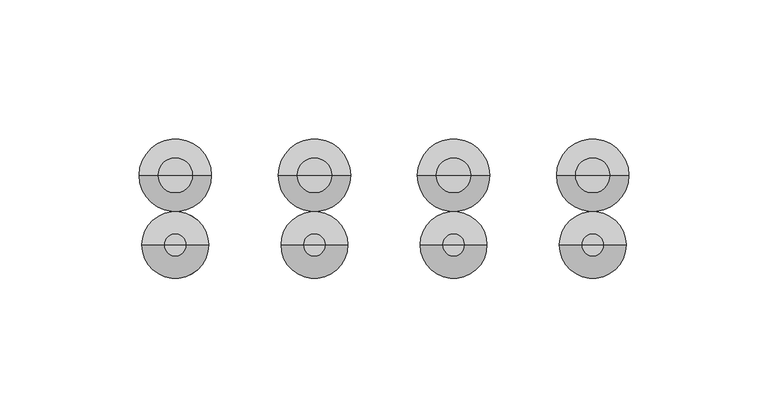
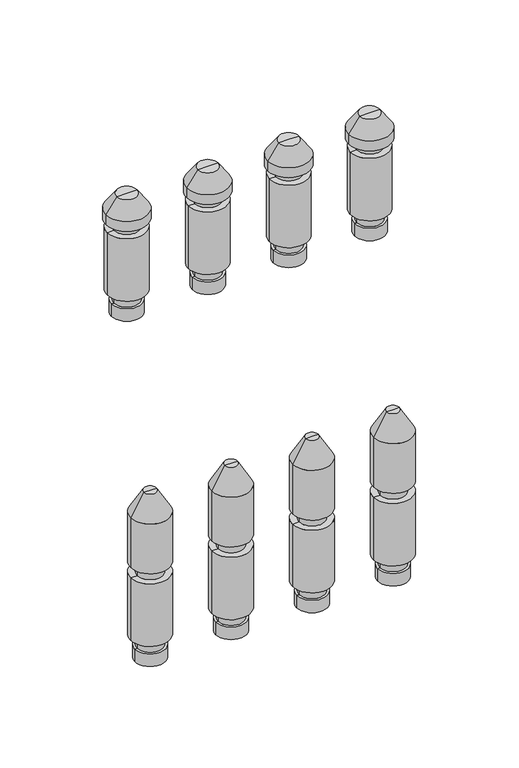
"""IFC4 building model written with IfcOpenShell, lengths in millimetres: valve geometry, PL CZ_Manifold_FT-VA : 14 circuits."""

from ifc_helpers import new_model, si_unit, frame, origin, place, context, project, spatial, polyline, circle_curve, source, transform, mapped, element, save
from ifc_brep_helpers import plane_surface, cylinder_surface, revolved_surface, advanced_brep


def valve_eef75e3c(model_context):
    return source(origin(), model_context, "Body", "AdvancedBrep", [
        advanced_brep(
        [(628.5, 0.0, -35.11267), (647.5, 0.0, -35.11267), (638.0, 0.0, -35.11267), (628.5, 0.0, -27.0369646), (647.5, 0.0, -27.0369646), (630.0, 0.0, -27.0369646), (646.0, 0.0, -27.0369646), (630.0, 0.0, -20.330253), (646.0, 0.0, -20.330253), (626.0, 0.0, -20.330253), (650.0, 0.0, -20.330253), (626.0, 0.0, 20.330253), (650.0, 0.0, 20.330253), (630.0, 0.0, 20.330253), (646.0, 0.0, 20.330253), (630.0, 0.0, 27.0474786), (646.0, 0.0, 27.0474786), (626.0, 0.0, 27.0474786), (650.0, 0.0, 27.0474786), (626.0, 0.0, 59.4084325), (650.0, 0.0, 59.4084325), (634.0, 0.0, 73.264839), (642.0, 0.0, 73.264839), (638.0, 0.0, 73.264839)],
        [
            (0, 1, circle_curve(frame((638.0, 0.0, -35.11267), z_axis=(0.0, 0.0, -1.0), x_axis=(1.0, 0.0, 0.0)), 9.5)),
            (1, 2),
            (2, 0),
            (1, 0, circle_curve(frame((638.0, 0.0, -35.11267), z_axis=(0.0, 0.0, -1.0), x_axis=(1.0, 0.0, 0.0)), 9.5)),
            (3, 4, circle_curve(frame((638.0, 0.0, -27.0369646), z_axis=(0.0, 0.0, -1.0), x_axis=(1.0, 0.0, 0.0)), 9.5)),
            (4, 1),
            (0, 3),
            (4, 3, circle_curve(frame((638.0, 0.0, -27.0369646), z_axis=(0.0, 0.0, -1.0), x_axis=(1.0, 0.0, 0.0)), 9.5)),
            (5, 6, circle_curve(frame((638.0, 0.0, -27.0369646), z_axis=(0.0, 0.0, -1.0), x_axis=(1.0, 0.0, 0.0)), 8.0)),
            (6, 4),
            (3, 5),
            (6, 5, circle_curve(frame((638.0, 0.0, -27.0369646), z_axis=(0.0, 0.0, -1.0), x_axis=(1.0, 0.0, 0.0)), 8.0)),
            (7, 8, circle_curve(frame((638.0, 0.0, -20.330253), z_axis=(0.0, 0.0, -1.0), x_axis=(1.0, 0.0, 0.0)), 8.0)),
            (8, 6),
            (5, 7),
            (8, 7, circle_curve(frame((638.0, 0.0, -20.330253), z_axis=(0.0, 0.0, -1.0), x_axis=(1.0, 0.0, 0.0)), 8.0)),
            (9, 10, circle_curve(frame((638.0, 0.0, -20.330253), z_axis=(0.0, 0.0, -1.0), x_axis=(1.0, 0.0, 0.0)), 12.0)),
            (10, 8),
            (7, 9),
            (10, 9, circle_curve(frame((638.0, 0.0, -20.330253), z_axis=(0.0, 0.0, -1.0), x_axis=(1.0, 0.0, 0.0)), 12.0)),
            (11, 12, circle_curve(frame((638.0, 0.0, 20.330253), z_axis=(0.0, 0.0, -1.0), x_axis=(1.0, 0.0, 0.0)), 12.0)),
            (12, 10),
            (9, 11),
            (12, 11, circle_curve(frame((638.0, 0.0, 20.330253), z_axis=(0.0, 0.0, -1.0), x_axis=(1.0, 0.0, 0.0)), 12.0)),
            (13, 14, circle_curve(frame((638.0, 0.0, 20.330253), z_axis=(0.0, 0.0, -1.0), x_axis=(1.0, 0.0, 0.0)), 8.0)),
            (14, 12),
            (11, 13),
            (14, 13, circle_curve(frame((638.0, 0.0, 20.330253), z_axis=(0.0, 0.0, -1.0), x_axis=(1.0, 0.0, 0.0)), 8.0)),
            (15, 16, circle_curve(frame((638.0, 0.0, 27.0474786), z_axis=(0.0, 0.0, -1.0), x_axis=(1.0, 0.0, 0.0)), 8.0)),
            (16, 14),
            (13, 15),
            (16, 15, circle_curve(frame((638.0, 0.0, 27.0474786), z_axis=(0.0, 0.0, -1.0), x_axis=(1.0, 0.0, 0.0)), 8.0)),
            (17, 18, circle_curve(frame((638.0, 0.0, 27.0474786), z_axis=(0.0, 0.0, -1.0), x_axis=(1.0, 0.0, 0.0)), 12.0)),
            (18, 16),
            (15, 17),
            (18, 17, circle_curve(frame((638.0, 0.0, 27.0474786), z_axis=(0.0, 0.0, -1.0), x_axis=(1.0, 0.0, 0.0)), 12.0)),
            (19, 20, circle_curve(frame((638.0, 0.0, 59.4084325), z_axis=(0.0, 0.0, -1.0), x_axis=(1.0, 0.0, 0.0)), 12.0)),
            (20, 18),
            (17, 19),
            (20, 19, circle_curve(frame((638.0, 0.0, 59.4084325), z_axis=(0.0, 0.0, -1.0), x_axis=(1.0, 0.0, 0.0)), 12.0)),
            (21, 22, circle_curve(frame((638.0, 0.0, 73.264839), z_axis=(0.0, 0.0, -1.0), x_axis=(1.0, 0.0, 0.0)), 4.0)),
            (22, 20),
            (19, 21),
            (22, 21, circle_curve(frame((638.0, 0.0, 73.264839), z_axis=(0.0, 0.0, -1.0), x_axis=(1.0, 0.0, 0.0)), 4.0)),
            (23, 22),
            (21, 23),
        ],
        [
            plane_surface(frame((638.0, 0.0, -35.11267), z_axis=(0.0, 0.0, -1.0), x_axis=(1.0, 0.0, 0.0))),
            cylinder_surface(frame((638.0, 0.0, 58.264839), z_axis=(0.0, 0.0, 1.0), x_axis=(1.0, 0.0, 0.0)), 9.5),
            plane_surface(frame((638.0, 0.0, -27.0369646), z_axis=(0.0, 0.0, 1.0), x_axis=(1.0, 0.0, 0.0))),
            cylinder_surface(frame((638.0, 0.0, 58.264839), z_axis=(0.0, 0.0, 1.0), x_axis=(1.0, 0.0, 0.0)), 8.0),
            plane_surface(frame((638.0, 0.0, -20.330253), z_axis=(0.0, 0.0, -1.0), x_axis=(1.0, 0.0, 0.0))),
            cylinder_surface(frame((638.0, 0.0, 58.264839), z_axis=(0.0, 0.0, 1.0), x_axis=(1.0, 0.0, 0.0)), 12.0),
            plane_surface(frame((638.0, 0.0, 20.330253), z_axis=(0.0, 0.0, 1.0), x_axis=(1.0, 0.0, 0.0))),
            plane_surface(frame((638.0, 0.0, 27.0474786), z_axis=(0.0, 0.0, -1.0), x_axis=(1.0, 0.0, 0.0))),
            revolved_surface(polyline([(650.0, 0.0, 59.4084325), (642.0, 0.0, 73.264839)]), (638.0, 0.0, 58.264839), (0.0, 0.0, 1.0)),
            plane_surface(frame((638.0, 0.0, 73.264839), z_axis=(0.0, 0.0, 1.0), x_axis=(1.0, 0.0, 0.0))),
        ],
        [
            (0, [[1, 2, 3]]),
            (0, [[4, -3, -2]]),
            (1, [[5, 6, -1, 7]]),
            (1, [[8, -7, -4, -6]]),
            (2, [[9, 10, -5, 11]]),
            (2, [[12, -11, -8, -10]]),
            (3, [[13, 14, -9, 15]]),
            (3, [[16, -15, -12, -14]]),
            (4, [[17, 18, -13, 19]]),
            (4, [[20, -19, -16, -18]]),
            (5, [[21, 22, -17, 23]]),
            (5, [[24, -23, -20, -22]]),
            (6, [[25, 26, -21, 27]]),
            (6, [[28, -27, -24, -26]]),
            (3, [[29, 30, -25, 31]]),
            (3, [[32, -31, -28, -30]]),
            (7, [[33, 34, -29, 35]]),
            (7, [[36, -35, -32, -34]]),
            (5, [[37, 38, -33, 39]]),
            (5, [[40, -39, -36, -38]]),
            (8, [[41, 42, -37, 43]]),
            (8, [[44, -43, -40, -42]]),
            (9, [[45, -41, 46]]),
            (9, [[-46, -44, -45]]),
        ],
    ),
        advanced_brep(
        [(578.5, 0.0, -35.11267), (597.5, 0.0, -35.11267), (588.0, 0.0, -35.11267), (578.5, 0.0, -27.0369646), (597.5, 0.0, -27.0369646), (580.0, 0.0, -27.0369646), (596.0, 0.0, -27.0369646), (580.0, 0.0, -20.330253), (596.0, 0.0, -20.330253), (576.0, 0.0, -20.330253), (600.0, 0.0, -20.330253), (576.0, 0.0, 20.330253), (600.0, 0.0, 20.330253), (580.0, 0.0, 20.330253), (596.0, 0.0, 20.330253), (580.0, 0.0, 27.0474786), (596.0, 0.0, 27.0474786), (576.0, 0.0, 27.0474786), (600.0, 0.0, 27.0474786), (576.0, 0.0, 59.4084325), (600.0, 0.0, 59.4084325), (584.0, 0.0, 73.264839), (592.0, 0.0, 73.264839), (588.0, 0.0, 73.264839)],
        [
            (0, 1, circle_curve(frame((588.0, 0.0, -35.11267), z_axis=(0.0, 0.0, -1.0), x_axis=(1.0, 0.0, 0.0)), 9.5)),
            (1, 2),
            (2, 0),
            (1, 0, circle_curve(frame((588.0, 0.0, -35.11267), z_axis=(0.0, 0.0, -1.0), x_axis=(1.0, 0.0, 0.0)), 9.5)),
            (3, 4, circle_curve(frame((588.0, 0.0, -27.0369646), z_axis=(0.0, 0.0, -1.0), x_axis=(1.0, 0.0, 0.0)), 9.5)),
            (4, 1),
            (0, 3),
            (4, 3, circle_curve(frame((588.0, 0.0, -27.0369646), z_axis=(0.0, 0.0, -1.0), x_axis=(1.0, 0.0, 0.0)), 9.5)),
            (5, 6, circle_curve(frame((588.0, 0.0, -27.0369646), z_axis=(0.0, 0.0, -1.0), x_axis=(1.0, 0.0, 0.0)), 8.0)),
            (6, 4),
            (3, 5),
            (6, 5, circle_curve(frame((588.0, 0.0, -27.0369646), z_axis=(0.0, 0.0, -1.0), x_axis=(1.0, 0.0, 0.0)), 8.0)),
            (7, 8, circle_curve(frame((588.0, 0.0, -20.330253), z_axis=(0.0, 0.0, -1.0), x_axis=(1.0, 0.0, 0.0)), 8.0)),
            (8, 6),
            (5, 7),
            (8, 7, circle_curve(frame((588.0, 0.0, -20.330253), z_axis=(0.0, 0.0, -1.0), x_axis=(1.0, 0.0, 0.0)), 8.0)),
            (9, 10, circle_curve(frame((588.0, 0.0, -20.330253), z_axis=(0.0, 0.0, -1.0), x_axis=(1.0, 0.0, 0.0)), 12.0)),
            (10, 8),
            (7, 9),
            (10, 9, circle_curve(frame((588.0, 0.0, -20.330253), z_axis=(0.0, 0.0, -1.0), x_axis=(1.0, 0.0, 0.0)), 12.0)),
            (11, 12, circle_curve(frame((588.0, 0.0, 20.330253), z_axis=(0.0, 0.0, -1.0), x_axis=(1.0, 0.0, 0.0)), 12.0)),
            (12, 10),
            (9, 11),
            (12, 11, circle_curve(frame((588.0, 0.0, 20.330253), z_axis=(0.0, 0.0, -1.0), x_axis=(1.0, 0.0, 0.0)), 12.0)),
            (13, 14, circle_curve(frame((588.0, 0.0, 20.330253), z_axis=(0.0, 0.0, -1.0), x_axis=(1.0, 0.0, 0.0)), 8.0)),
            (14, 12),
            (11, 13),
            (14, 13, circle_curve(frame((588.0, 0.0, 20.330253), z_axis=(0.0, 0.0, -1.0), x_axis=(1.0, 0.0, 0.0)), 8.0)),
            (15, 16, circle_curve(frame((588.0, 0.0, 27.0474786), z_axis=(0.0, 0.0, -1.0), x_axis=(1.0, 0.0, 0.0)), 8.0)),
            (16, 14),
            (13, 15),
            (16, 15, circle_curve(frame((588.0, 0.0, 27.0474786), z_axis=(0.0, 0.0, -1.0), x_axis=(1.0, 0.0, 0.0)), 8.0)),
            (17, 18, circle_curve(frame((588.0, 0.0, 27.0474786), z_axis=(0.0, 0.0, -1.0), x_axis=(1.0, 0.0, 0.0)), 12.0)),
            (18, 16),
            (15, 17),
            (18, 17, circle_curve(frame((588.0, 0.0, 27.0474786), z_axis=(0.0, 0.0, -1.0), x_axis=(1.0, 0.0, 0.0)), 12.0)),
            (19, 20, circle_curve(frame((588.0, 0.0, 59.4084325), z_axis=(0.0, 0.0, -1.0), x_axis=(1.0, 0.0, 0.0)), 12.0)),
            (20, 18),
            (17, 19),
            (20, 19, circle_curve(frame((588.0, 0.0, 59.4084325), z_axis=(0.0, 0.0, -1.0), x_axis=(1.0, 0.0, 0.0)), 12.0)),
            (21, 22, circle_curve(frame((588.0, 0.0, 73.264839), z_axis=(0.0, 0.0, -1.0), x_axis=(1.0, 0.0, 0.0)), 4.0)),
            (22, 20),
            (19, 21),
            (22, 21, circle_curve(frame((588.0, 0.0, 73.264839), z_axis=(0.0, 0.0, -1.0), x_axis=(1.0, 0.0, 0.0)), 4.0)),
            (23, 22),
            (21, 23),
        ],
        [
            plane_surface(frame((588.0, 0.0, -35.11267), z_axis=(0.0, 0.0, -1.0), x_axis=(1.0, 0.0, 0.0))),
            cylinder_surface(frame((588.0, 0.0, 58.264839), z_axis=(0.0, 0.0, 1.0), x_axis=(1.0, 0.0, 0.0)), 9.5),
            plane_surface(frame((588.0, 0.0, -27.0369646), z_axis=(0.0, 0.0, 1.0), x_axis=(1.0, 0.0, 0.0))),
            cylinder_surface(frame((588.0, 0.0, 58.264839), z_axis=(0.0, 0.0, 1.0), x_axis=(1.0, 0.0, 0.0)), 8.0),
            plane_surface(frame((588.0, 0.0, -20.330253), z_axis=(0.0, 0.0, -1.0), x_axis=(1.0, 0.0, 0.0))),
            cylinder_surface(frame((588.0, 0.0, 58.264839), z_axis=(0.0, 0.0, 1.0), x_axis=(1.0, 0.0, 0.0)), 12.0),
            plane_surface(frame((588.0, 0.0, 20.330253), z_axis=(0.0, 0.0, 1.0), x_axis=(1.0, 0.0, 0.0))),
            plane_surface(frame((588.0, 0.0, 27.0474786), z_axis=(0.0, 0.0, -1.0), x_axis=(1.0, 0.0, 0.0))),
            revolved_surface(polyline([(600.0, 0.0, 59.4084325), (592.0, 0.0, 73.264839)]), (588.0, 0.0, 58.264839), (0.0, 0.0, 1.0)),
            plane_surface(frame((588.0, 0.0, 73.264839), z_axis=(0.0, 0.0, 1.0), x_axis=(1.0, 0.0, 0.0))),
        ],
        [
            (0, [[1, 2, 3]]),
            (0, [[4, -3, -2]]),
            (1, [[5, 6, -1, 7]]),
            (1, [[8, -7, -4, -6]]),
            (2, [[9, 10, -5, 11]]),
            (2, [[12, -11, -8, -10]]),
            (3, [[13, 14, -9, 15]]),
            (3, [[16, -15, -12, -14]]),
            (4, [[17, 18, -13, 19]]),
            (4, [[20, -19, -16, -18]]),
            (5, [[21, 22, -17, 23]]),
            (5, [[24, -23, -20, -22]]),
            (6, [[25, 26, -21, 27]]),
            (6, [[28, -27, -24, -26]]),
            (3, [[29, 30, -25, 31]]),
            (3, [[32, -31, -28, -30]]),
            (7, [[33, 34, -29, 35]]),
            (7, [[36, -35, -32, -34]]),
            (5, [[37, 38, -33, 39]]),
            (5, [[40, -39, -36, -38]]),
            (8, [[41, 42, -37, 43]]),
            (8, [[44, -43, -40, -42]]),
            (9, [[45, -41, 46]]),
            (9, [[-46, -44, -45]]),
        ],
    ),
        advanced_brep(
        [(528.5, 0.0, -35.11267), (547.5, 0.0, -35.11267), (538.0, 0.0, -35.11267), (528.5, 0.0, -27.0369646), (547.5, 0.0, -27.0369646), (530.0, 0.0, -27.0369646), (546.0, 0.0, -27.0369646), (530.0, 0.0, -20.330253), (546.0, 0.0, -20.330253), (526.0, 0.0, -20.330253), (550.0, 0.0, -20.330253), (526.0, 0.0, 20.330253), (550.0, 0.0, 20.330253), (530.0, 0.0, 20.330253), (546.0, 0.0, 20.330253), (530.0, 0.0, 27.0474786), (546.0, 0.0, 27.0474786), (526.0, 0.0, 27.0474786), (550.0, 0.0, 27.0474786), (526.0, 0.0, 59.4084325), (550.0, 0.0, 59.4084325), (534.0, 0.0, 73.264839), (542.0, 0.0, 73.264839), (538.0, 0.0, 73.264839)],
        [
            (0, 1, circle_curve(frame((538.0, 0.0, -35.11267), z_axis=(0.0, 0.0, -1.0), x_axis=(1.0, 0.0, 0.0)), 9.5)),
            (1, 2),
            (2, 0),
            (1, 0, circle_curve(frame((538.0, 0.0, -35.11267), z_axis=(0.0, 0.0, -1.0), x_axis=(1.0, 0.0, 0.0)), 9.5)),
            (3, 4, circle_curve(frame((538.0, 0.0, -27.0369646), z_axis=(0.0, 0.0, -1.0), x_axis=(1.0, 0.0, 0.0)), 9.5)),
            (4, 1),
            (0, 3),
            (4, 3, circle_curve(frame((538.0, 0.0, -27.0369646), z_axis=(0.0, 0.0, -1.0), x_axis=(1.0, 0.0, 0.0)), 9.5)),
            (5, 6, circle_curve(frame((538.0, 0.0, -27.0369646), z_axis=(0.0, 0.0, -1.0), x_axis=(1.0, 0.0, 0.0)), 8.0)),
            (6, 4),
            (3, 5),
            (6, 5, circle_curve(frame((538.0, 0.0, -27.0369646), z_axis=(0.0, 0.0, -1.0), x_axis=(1.0, 0.0, 0.0)), 8.0)),
            (7, 8, circle_curve(frame((538.0, 0.0, -20.330253), z_axis=(0.0, 0.0, -1.0), x_axis=(1.0, 0.0, 0.0)), 8.0)),
            (8, 6),
            (5, 7),
            (8, 7, circle_curve(frame((538.0, 0.0, -20.330253), z_axis=(0.0, 0.0, -1.0), x_axis=(1.0, 0.0, 0.0)), 8.0)),
            (9, 10, circle_curve(frame((538.0, 0.0, -20.330253), z_axis=(0.0, 0.0, -1.0), x_axis=(1.0, 0.0, 0.0)), 12.0)),
            (10, 8),
            (7, 9),
            (10, 9, circle_curve(frame((538.0, 0.0, -20.330253), z_axis=(0.0, 0.0, -1.0), x_axis=(1.0, 0.0, 0.0)), 12.0)),
            (11, 12, circle_curve(frame((538.0, 0.0, 20.330253), z_axis=(0.0, 0.0, -1.0), x_axis=(1.0, 0.0, 0.0)), 12.0)),
            (12, 10),
            (9, 11),
            (12, 11, circle_curve(frame((538.0, 0.0, 20.330253), z_axis=(0.0, 0.0, -1.0), x_axis=(1.0, 0.0, 0.0)), 12.0)),
            (13, 14, circle_curve(frame((538.0, 0.0, 20.330253), z_axis=(0.0, 0.0, -1.0), x_axis=(1.0, 0.0, 0.0)), 8.0)),
            (14, 12),
            (11, 13),
            (14, 13, circle_curve(frame((538.0, 0.0, 20.330253), z_axis=(0.0, 0.0, -1.0), x_axis=(1.0, 0.0, 0.0)), 8.0)),
            (15, 16, circle_curve(frame((538.0, 0.0, 27.0474786), z_axis=(0.0, 0.0, -1.0), x_axis=(1.0, 0.0, 0.0)), 8.0)),
            (16, 14),
            (13, 15),
            (16, 15, circle_curve(frame((538.0, 0.0, 27.0474786), z_axis=(0.0, 0.0, -1.0), x_axis=(1.0, 0.0, 0.0)), 8.0)),
            (17, 18, circle_curve(frame((538.0, 0.0, 27.0474786), z_axis=(0.0, 0.0, -1.0), x_axis=(1.0, 0.0, 0.0)), 12.0)),
            (18, 16),
            (15, 17),
            (18, 17, circle_curve(frame((538.0, 0.0, 27.0474786), z_axis=(0.0, 0.0, -1.0), x_axis=(1.0, 0.0, 0.0)), 12.0)),
            (19, 20, circle_curve(frame((538.0, 0.0, 59.4084325), z_axis=(0.0, 0.0, -1.0), x_axis=(1.0, 0.0, 0.0)), 12.0)),
            (20, 18),
            (17, 19),
            (20, 19, circle_curve(frame((538.0, 0.0, 59.4084325), z_axis=(0.0, 0.0, -1.0), x_axis=(1.0, 0.0, 0.0)), 12.0)),
            (21, 22, circle_curve(frame((538.0, 0.0, 73.264839), z_axis=(0.0, 0.0, -1.0), x_axis=(1.0, 0.0, 0.0)), 4.0)),
            (22, 20),
            (19, 21),
            (22, 21, circle_curve(frame((538.0, 0.0, 73.264839), z_axis=(0.0, 0.0, -1.0), x_axis=(1.0, 0.0, 0.0)), 4.0)),
            (23, 22),
            (21, 23),
        ],
        [
            plane_surface(frame((538.0, 0.0, -35.11267), z_axis=(0.0, 0.0, -1.0), x_axis=(1.0, 0.0, 0.0))),
            cylinder_surface(frame((538.0, 0.0, 58.264839), z_axis=(0.0, 0.0, 1.0), x_axis=(1.0, 0.0, 0.0)), 9.5),
            plane_surface(frame((538.0, 0.0, -27.0369646), z_axis=(0.0, 0.0, 1.0), x_axis=(1.0, 0.0, 0.0))),
            cylinder_surface(frame((538.0, 0.0, 58.264839), z_axis=(0.0, 0.0, 1.0), x_axis=(1.0, 0.0, 0.0)), 8.0),
            plane_surface(frame((538.0, 0.0, -20.330253), z_axis=(0.0, 0.0, -1.0), x_axis=(1.0, 0.0, 0.0))),
            cylinder_surface(frame((538.0, 0.0, 58.264839), z_axis=(0.0, 0.0, 1.0), x_axis=(1.0, 0.0, 0.0)), 12.0),
            plane_surface(frame((538.0, 0.0, 20.330253), z_axis=(0.0, 0.0, 1.0), x_axis=(1.0, 0.0, 0.0))),
            plane_surface(frame((538.0, 0.0, 27.0474786), z_axis=(0.0, 0.0, -1.0), x_axis=(1.0, 0.0, 0.0))),
            revolved_surface(polyline([(550.0, 0.0, 59.4084325), (542.0, 0.0, 73.264839)]), (538.0, 0.0, 58.264839), (0.0, 0.0, 1.0)),
            plane_surface(frame((538.0, 0.0, 73.264839), z_axis=(0.0, 0.0, 1.0), x_axis=(1.0, 0.0, 0.0))),
        ],
        [
            (0, [[1, 2, 3]]),
            (0, [[4, -3, -2]]),
            (1, [[5, 6, -1, 7]]),
            (1, [[8, -7, -4, -6]]),
            (2, [[9, 10, -5, 11]]),
            (2, [[12, -11, -8, -10]]),
            (3, [[13, 14, -9, 15]]),
            (3, [[16, -15, -12, -14]]),
            (4, [[17, 18, -13, 19]]),
            (4, [[20, -19, -16, -18]]),
            (5, [[21, 22, -17, 23]]),
            (5, [[24, -23, -20, -22]]),
            (6, [[25, 26, -21, 27]]),
            (6, [[28, -27, -24, -26]]),
            (3, [[29, 30, -25, 31]]),
            (3, [[32, -31, -28, -30]]),
            (7, [[33, 34, -29, 35]]),
            (7, [[36, -35, -32, -34]]),
            (5, [[37, 38, -33, 39]]),
            (5, [[40, -39, -36, -38]]),
            (8, [[41, 42, -37, 43]]),
            (8, [[44, -43, -40, -42]]),
            (9, [[45, -41, 46]]),
            (9, [[-46, -44, -45]]),
        ],
    ),
        advanced_brep(
        [(478.5, 0.0, -35.11267), (497.5, 0.0, -35.11267), (488.0, 0.0, -35.11267), (478.5, 0.0, -27.0369646), (497.5, 0.0, -27.0369646), (480.0, 0.0, -27.0369646), (496.0, 0.0, -27.0369646), (480.0, 0.0, -20.330253), (496.0, 0.0, -20.330253), (476.0, 0.0, -20.330253), (500.0, 0.0, -20.330253), (476.0, 0.0, 20.330253), (500.0, 0.0, 20.330253), (480.0, 0.0, 20.330253), (496.0, 0.0, 20.330253), (480.0, 0.0, 27.0474786), (496.0, 0.0, 27.0474786), (476.0, 0.0, 27.0474786), (500.0, 0.0, 27.0474786), (476.0, 0.0, 59.4084325), (500.0, 0.0, 59.4084325), (484.0, 0.0, 73.264839), (492.0, 0.0, 73.264839), (488.0, 0.0, 73.264839)],
        [
            (0, 1, circle_curve(frame((488.0, 0.0, -35.11267), z_axis=(0.0, 0.0, -1.0), x_axis=(1.0, 0.0, 0.0)), 9.5)),
            (1, 2),
            (2, 0),
            (1, 0, circle_curve(frame((488.0, 0.0, -35.11267), z_axis=(0.0, 0.0, -1.0), x_axis=(1.0, 0.0, 0.0)), 9.5)),
            (3, 4, circle_curve(frame((488.0, 0.0, -27.0369646), z_axis=(0.0, 0.0, -1.0), x_axis=(1.0, 0.0, 0.0)), 9.5)),
            (4, 1),
            (0, 3),
            (4, 3, circle_curve(frame((488.0, 0.0, -27.0369646), z_axis=(0.0, 0.0, -1.0), x_axis=(1.0, 0.0, 0.0)), 9.5)),
            (5, 6, circle_curve(frame((488.0, 0.0, -27.0369646), z_axis=(0.0, 0.0, -1.0), x_axis=(1.0, 0.0, 0.0)), 8.0)),
            (6, 4),
            (3, 5),
            (6, 5, circle_curve(frame((488.0, 0.0, -27.0369646), z_axis=(0.0, 0.0, -1.0), x_axis=(1.0, 0.0, 0.0)), 8.0)),
            (7, 8, circle_curve(frame((488.0, 0.0, -20.330253), z_axis=(0.0, 0.0, -1.0), x_axis=(1.0, 0.0, 0.0)), 8.0)),
            (8, 6),
            (5, 7),
            (8, 7, circle_curve(frame((488.0, 0.0, -20.330253), z_axis=(0.0, 0.0, -1.0), x_axis=(1.0, 0.0, 0.0)), 8.0)),
            (9, 10, circle_curve(frame((488.0, 0.0, -20.330253), z_axis=(0.0, 0.0, -1.0), x_axis=(1.0, 0.0, 0.0)), 12.0)),
            (10, 8),
            (7, 9),
            (10, 9, circle_curve(frame((488.0, 0.0, -20.330253), z_axis=(0.0, 0.0, -1.0), x_axis=(1.0, 0.0, 0.0)), 12.0)),
            (11, 12, circle_curve(frame((488.0, 0.0, 20.330253), z_axis=(0.0, 0.0, -1.0), x_axis=(1.0, 0.0, 0.0)), 12.0)),
            (12, 10),
            (9, 11),
            (12, 11, circle_curve(frame((488.0, 0.0, 20.330253), z_axis=(0.0, 0.0, -1.0), x_axis=(1.0, 0.0, 0.0)), 12.0)),
            (13, 14, circle_curve(frame((488.0, 0.0, 20.330253), z_axis=(0.0, 0.0, -1.0), x_axis=(1.0, 0.0, 0.0)), 8.0)),
            (14, 12),
            (11, 13),
            (14, 13, circle_curve(frame((488.0, 0.0, 20.330253), z_axis=(0.0, 0.0, -1.0), x_axis=(1.0, 0.0, 0.0)), 8.0)),
            (15, 16, circle_curve(frame((488.0, 0.0, 27.0474786), z_axis=(0.0, 0.0, -1.0), x_axis=(1.0, 0.0, 0.0)), 8.0)),
            (16, 14),
            (13, 15),
            (16, 15, circle_curve(frame((488.0, 0.0, 27.0474786), z_axis=(0.0, 0.0, -1.0), x_axis=(1.0, 0.0, 0.0)), 8.0)),
            (17, 18, circle_curve(frame((488.0, 0.0, 27.0474786), z_axis=(0.0, 0.0, -1.0), x_axis=(1.0, 0.0, 0.0)), 12.0)),
            (18, 16),
            (15, 17),
            (18, 17, circle_curve(frame((488.0, 0.0, 27.0474786), z_axis=(0.0, 0.0, -1.0), x_axis=(1.0, 0.0, 0.0)), 12.0)),
            (19, 20, circle_curve(frame((488.0, 0.0, 59.4084325), z_axis=(0.0, 0.0, -1.0), x_axis=(1.0, 0.0, 0.0)), 12.0)),
            (20, 18),
            (17, 19),
            (20, 19, circle_curve(frame((488.0, 0.0, 59.4084325), z_axis=(0.0, 0.0, -1.0), x_axis=(1.0, 0.0, 0.0)), 12.0)),
            (21, 22, circle_curve(frame((488.0, 0.0, 73.264839), z_axis=(0.0, 0.0, -1.0), x_axis=(1.0, 0.0, 0.0)), 4.0)),
            (22, 20),
            (19, 21),
            (22, 21, circle_curve(frame((488.0, 0.0, 73.264839), z_axis=(0.0, 0.0, -1.0), x_axis=(1.0, 0.0, 0.0)), 4.0)),
            (23, 22),
            (21, 23),
        ],
        [
            plane_surface(frame((488.0, 0.0, -35.11267), z_axis=(0.0, 0.0, -1.0), x_axis=(1.0, 0.0, 0.0))),
            cylinder_surface(frame((488.0, 0.0, 58.264839), z_axis=(0.0, 0.0, 1.0), x_axis=(1.0, 0.0, 0.0)), 9.5),
            plane_surface(frame((488.0, 0.0, -27.0369646), z_axis=(0.0, 0.0, 1.0), x_axis=(1.0, 0.0, 0.0))),
            cylinder_surface(frame((488.0, 0.0, 58.264839), z_axis=(0.0, 0.0, 1.0), x_axis=(1.0, 0.0, 0.0)), 8.0),
            plane_surface(frame((488.0, 0.0, -20.330253), z_axis=(0.0, 0.0, -1.0), x_axis=(1.0, 0.0, 0.0))),
            cylinder_surface(frame((488.0, 0.0, 58.264839), z_axis=(0.0, 0.0, 1.0), x_axis=(1.0, 0.0, 0.0)), 12.0),
            plane_surface(frame((488.0, 0.0, 20.330253), z_axis=(0.0, 0.0, 1.0), x_axis=(1.0, 0.0, 0.0))),
            plane_surface(frame((488.0, 0.0, 27.0474786), z_axis=(0.0, 0.0, -1.0), x_axis=(1.0, 0.0, 0.0))),
            revolved_surface(polyline([(500.0, 0.0, 59.4084325), (492.0, 0.0, 73.264839)]), (488.0, 0.0, 58.264839), (0.0, 0.0, 1.0)),
            plane_surface(frame((488.0, 0.0, 73.264839), z_axis=(0.0, 0.0, 1.0), x_axis=(1.0, 0.0, 0.0))),
        ],
        [
            (0, [[1, 2, 3]]),
            (0, [[4, -3, -2]]),
            (1, [[5, 6, -1, 7]]),
            (1, [[8, -7, -4, -6]]),
            (2, [[9, 10, -5, 11]]),
            (2, [[12, -11, -8, -10]]),
            (3, [[13, 14, -9, 15]]),
            (3, [[16, -15, -12, -14]]),
            (4, [[17, 18, -13, 19]]),
            (4, [[20, -19, -16, -18]]),
            (5, [[21, 22, -17, 23]]),
            (5, [[24, -23, -20, -22]]),
            (6, [[25, 26, -21, 27]]),
            (6, [[28, -27, -24, -26]]),
            (3, [[29, 30, -25, 31]]),
            (3, [[32, -31, -28, -30]]),
            (7, [[33, 34, -29, 35]]),
            (7, [[36, -35, -32, -34]]),
            (5, [[37, 38, -33, 39]]),
            (5, [[40, -39, -36, -38]]),
            (8, [[41, 42, -37, 43]]),
            (8, [[44, -43, -40, -42]]),
            (9, [[45, -41, 46]]),
            (9, [[-46, -44, -45]]),
        ],
    ),
        advanced_brep(
        [(628.5, 25.0, 174.88733), (647.5, 25.0, 174.88733), (638.0, 25.0, 174.88733), (628.5, 25.0, 182.9630354), (647.5, 25.0, 182.9630354), (630.0, 25.0, 182.9630354), (646.0, 25.0, 182.9630354), (630.0, 25.0, 189.669747), (646.0, 25.0, 189.669747), (626.0, 25.0, 189.669747), (650.0, 25.0, 189.669747), (626.0, 25.0, 230.330253), (650.0, 25.0, 230.330253), (630.0, 25.0, 230.330253), (646.0, 25.0, 230.330253), (630.0, 25.0, 236.0474786), (646.0, 25.0, 236.0474786), (625.0, 25.0, 236.0474786), (651.0, 25.0, 236.0474786), (625.0, 25.0, 242.337955), (651.0, 25.0, 242.337955), (631.6551779, 25.0, 251.842534), (644.3448221, 25.0, 251.842534), (638.0, 25.0, 251.842534)],
        [
            (0, 1, circle_curve(frame((638.0, 25.0, 174.88733), z_axis=(0.0, 0.0, -1.0), x_axis=(1.0, 0.0, 0.0)), 9.5)),
            (1, 2),
            (2, 0),
            (1, 0, circle_curve(frame((638.0, 25.0, 174.88733), z_axis=(0.0, 0.0, -1.0), x_axis=(1.0, 0.0, 0.0)), 9.5)),
            (3, 4, circle_curve(frame((638.0, 25.0, 182.9630354), z_axis=(0.0, 0.0, -1.0), x_axis=(1.0, 0.0, 0.0)), 9.5)),
            (4, 1),
            (0, 3),
            (4, 3, circle_curve(frame((638.0, 25.0, 182.9630354), z_axis=(0.0, 0.0, -1.0), x_axis=(1.0, 0.0, 0.0)), 9.5)),
            (5, 6, circle_curve(frame((638.0, 25.0, 182.9630354), z_axis=(0.0, 0.0, -1.0), x_axis=(1.0, 0.0, 0.0)), 8.0)),
            (6, 4),
            (3, 5),
            (6, 5, circle_curve(frame((638.0, 25.0, 182.9630354), z_axis=(0.0, 0.0, -1.0), x_axis=(1.0, 0.0, 0.0)), 8.0)),
            (7, 8, circle_curve(frame((638.0, 25.0, 189.669747), z_axis=(0.0, 0.0, -1.0), x_axis=(1.0, 0.0, 0.0)), 8.0)),
            (8, 6),
            (5, 7),
            (8, 7, circle_curve(frame((638.0, 25.0, 189.669747), z_axis=(0.0, 0.0, -1.0), x_axis=(1.0, 0.0, 0.0)), 8.0)),
            (9, 10, circle_curve(frame((638.0, 25.0, 189.669747), z_axis=(0.0, 0.0, -1.0), x_axis=(1.0, 0.0, 0.0)), 12.0)),
            (10, 8),
            (7, 9),
            (10, 9, circle_curve(frame((638.0, 25.0, 189.669747), z_axis=(0.0, 0.0, -1.0), x_axis=(1.0, 0.0, 0.0)), 12.0)),
            (11, 12, circle_curve(frame((638.0, 25.0, 230.330253), z_axis=(0.0, 0.0, -1.0), x_axis=(1.0, 0.0, 0.0)), 12.0)),
            (12, 10),
            (9, 11),
            (12, 11, circle_curve(frame((638.0, 25.0, 230.330253), z_axis=(0.0, 0.0, -1.0), x_axis=(1.0, 0.0, 0.0)), 12.0)),
            (13, 14, circle_curve(frame((638.0, 25.0, 230.330253), z_axis=(0.0, 0.0, -1.0), x_axis=(1.0, 0.0, 0.0)), 8.0)),
            (14, 12),
            (11, 13),
            (14, 13, circle_curve(frame((638.0, 25.0, 230.330253), z_axis=(0.0, 0.0, -1.0), x_axis=(1.0, 0.0, 0.0)), 8.0)),
            (15, 16, circle_curve(frame((638.0, 25.0, 236.0474786), z_axis=(0.0, 0.0, -1.0), x_axis=(1.0, 0.0, 0.0)), 8.0)),
            (16, 14),
            (13, 15),
            (16, 15, circle_curve(frame((638.0, 25.0, 236.0474786), z_axis=(0.0, 0.0, -1.0), x_axis=(1.0, 0.0, 0.0)), 8.0)),
            (17, 18, circle_curve(frame((638.0, 25.0, 236.0474786), z_axis=(0.0, 0.0, -1.0), x_axis=(1.0, 0.0, 0.0)), 13.0)),
            (18, 16),
            (15, 17),
            (18, 17, circle_curve(frame((638.0, 25.0, 236.0474786), z_axis=(0.0, 0.0, -1.0), x_axis=(1.0, 0.0, 0.0)), 13.0)),
            (19, 20, circle_curve(frame((638.0, 25.0, 242.337955), z_axis=(0.0, 0.0, -1.0), x_axis=(1.0, 0.0, 0.0)), 13.0)),
            (20, 18),
            (17, 19),
            (20, 19, circle_curve(frame((638.0, 25.0, 242.337955), z_axis=(0.0, 0.0, -1.0), x_axis=(1.0, 0.0, 0.0)), 13.0)),
            (21, 22, circle_curve(frame((638.0, 25.0, 251.842534), z_axis=(0.0, 0.0, -1.0), x_axis=(1.0, 0.0, 0.0)), 6.3448221)),
            (22, 20),
            (19, 21),
            (22, 21, circle_curve(frame((638.0, 25.0, 251.842534), z_axis=(0.0, 0.0, -1.0), x_axis=(1.0, 0.0, 0.0)), 6.3448221)),
            (23, 22),
            (21, 23),
        ],
        [
            plane_surface(frame((638.0, 25.0, 174.88733), z_axis=(0.0, 0.0, -1.0), x_axis=(1.0, 0.0, 0.0))),
            cylinder_surface(frame((638.0, 25.0, 247.7026565), z_axis=(0.0, 0.0, 1.0), x_axis=(1.0, 0.0, 0.0)), 9.5),
            plane_surface(frame((638.0, 25.0, 182.9630354), z_axis=(0.0, 0.0, 1.0), x_axis=(1.0, 0.0, 0.0))),
            cylinder_surface(frame((638.0, 25.0, 247.7026565), z_axis=(0.0, 0.0, 1.0), x_axis=(1.0, 0.0, 0.0)), 8.0),
            plane_surface(frame((638.0, 25.0, 189.669747), z_axis=(0.0, 0.0, -1.0), x_axis=(1.0, 0.0, 0.0))),
            cylinder_surface(frame((638.0, 25.0, 247.7026565), z_axis=(0.0, 0.0, 1.0), x_axis=(1.0, 0.0, 0.0)), 12.0),
            plane_surface(frame((638.0, 25.0, 230.330253), z_axis=(0.0, 0.0, 1.0), x_axis=(1.0, 0.0, 0.0))),
            plane_surface(frame((638.0, 25.0, 236.0474786), z_axis=(0.0, 0.0, -1.0), x_axis=(1.0, 0.0, 0.0))),
            cylinder_surface(frame((638.0, 25.0, 247.7026565), z_axis=(0.0, 0.0, 1.0), x_axis=(1.0, 0.0, 0.0)), 13.0),
            revolved_surface(polyline([(651.0, 25.0, 242.337955), (644.3448221, 25.0, 251.842534)]), (638.0, 25.0, 247.7026565), (0.0, 0.0, 1.0)),
            plane_surface(frame((638.0, 25.0, 251.842534), z_axis=(0.0, 0.0, 1.0), x_axis=(1.0, 0.0, 0.0))),
        ],
        [
            (0, [[1, 2, 3]]),
            (0, [[4, -3, -2]]),
            (1, [[5, 6, -1, 7]]),
            (1, [[8, -7, -4, -6]]),
            (2, [[9, 10, -5, 11]]),
            (2, [[12, -11, -8, -10]]),
            (3, [[13, 14, -9, 15]]),
            (3, [[16, -15, -12, -14]]),
            (4, [[17, 18, -13, 19]]),
            (4, [[20, -19, -16, -18]]),
            (5, [[21, 22, -17, 23]]),
            (5, [[24, -23, -20, -22]]),
            (6, [[25, 26, -21, 27]]),
            (6, [[28, -27, -24, -26]]),
            (3, [[29, 30, -25, 31]]),
            (3, [[32, -31, -28, -30]]),
            (7, [[33, 34, -29, 35]]),
            (7, [[36, -35, -32, -34]]),
            (8, [[37, 38, -33, 39]]),
            (8, [[40, -39, -36, -38]]),
            (9, [[41, 42, -37, 43]]),
            (9, [[44, -43, -40, -42]]),
            (10, [[45, -41, 46]]),
            (10, [[-46, -44, -45]]),
        ],
    ),
        advanced_brep(
        [(578.5, 25.0, 174.88733), (597.5, 25.0, 174.88733), (588.0, 25.0, 174.88733), (578.5, 25.0, 182.9630354), (597.5, 25.0, 182.9630354), (580.0, 25.0, 182.9630354), (596.0, 25.0, 182.9630354), (580.0, 25.0, 189.669747), (596.0, 25.0, 189.669747), (576.0, 25.0, 189.669747), (600.0, 25.0, 189.669747), (576.0, 25.0, 230.330253), (600.0, 25.0, 230.330253), (580.0, 25.0, 230.330253), (596.0, 25.0, 230.330253), (580.0, 25.0, 236.0474786), (596.0, 25.0, 236.0474786), (575.0, 25.0, 236.0474786), (601.0, 25.0, 236.0474786), (575.0, 25.0, 242.337955), (601.0, 25.0, 242.337955), (581.6551779, 25.0, 251.842534), (594.3448221, 25.0, 251.842534), (588.0, 25.0, 251.842534)],
        [
            (0, 1, circle_curve(frame((588.0, 25.0, 174.88733), z_axis=(0.0, 0.0, -1.0), x_axis=(1.0, 0.0, 0.0)), 9.5)),
            (1, 2),
            (2, 0),
            (1, 0, circle_curve(frame((588.0, 25.0, 174.88733), z_axis=(0.0, 0.0, -1.0), x_axis=(1.0, 0.0, 0.0)), 9.5)),
            (3, 4, circle_curve(frame((588.0, 25.0, 182.9630354), z_axis=(0.0, 0.0, -1.0), x_axis=(1.0, 0.0, 0.0)), 9.5)),
            (4, 1),
            (0, 3),
            (4, 3, circle_curve(frame((588.0, 25.0, 182.9630354), z_axis=(0.0, 0.0, -1.0), x_axis=(1.0, 0.0, 0.0)), 9.5)),
            (5, 6, circle_curve(frame((588.0, 25.0, 182.9630354), z_axis=(0.0, 0.0, -1.0), x_axis=(1.0, 0.0, 0.0)), 8.0)),
            (6, 4),
            (3, 5),
            (6, 5, circle_curve(frame((588.0, 25.0, 182.9630354), z_axis=(0.0, 0.0, -1.0), x_axis=(1.0, 0.0, 0.0)), 8.0)),
            (7, 8, circle_curve(frame((588.0, 25.0, 189.669747), z_axis=(0.0, 0.0, -1.0), x_axis=(1.0, 0.0, 0.0)), 8.0)),
            (8, 6),
            (5, 7),
            (8, 7, circle_curve(frame((588.0, 25.0, 189.669747), z_axis=(0.0, 0.0, -1.0), x_axis=(1.0, 0.0, 0.0)), 8.0)),
            (9, 10, circle_curve(frame((588.0, 25.0, 189.669747), z_axis=(0.0, 0.0, -1.0), x_axis=(1.0, 0.0, 0.0)), 12.0)),
            (10, 8),
            (7, 9),
            (10, 9, circle_curve(frame((588.0, 25.0, 189.669747), z_axis=(0.0, 0.0, -1.0), x_axis=(1.0, 0.0, 0.0)), 12.0)),
            (11, 12, circle_curve(frame((588.0, 25.0, 230.330253), z_axis=(0.0, 0.0, -1.0), x_axis=(1.0, 0.0, 0.0)), 12.0)),
            (12, 10),
            (9, 11),
            (12, 11, circle_curve(frame((588.0, 25.0, 230.330253), z_axis=(0.0, 0.0, -1.0), x_axis=(1.0, 0.0, 0.0)), 12.0)),
            (13, 14, circle_curve(frame((588.0, 25.0, 230.330253), z_axis=(0.0, 0.0, -1.0), x_axis=(1.0, 0.0, 0.0)), 8.0)),
            (14, 12),
            (11, 13),
            (14, 13, circle_curve(frame((588.0, 25.0, 230.330253), z_axis=(0.0, 0.0, -1.0), x_axis=(1.0, 0.0, 0.0)), 8.0)),
            (15, 16, circle_curve(frame((588.0, 25.0, 236.0474786), z_axis=(0.0, 0.0, -1.0), x_axis=(1.0, 0.0, 0.0)), 8.0)),
            (16, 14),
            (13, 15),
            (16, 15, circle_curve(frame((588.0, 25.0, 236.0474786), z_axis=(0.0, 0.0, -1.0), x_axis=(1.0, 0.0, 0.0)), 8.0)),
            (17, 18, circle_curve(frame((588.0, 25.0, 236.0474786), z_axis=(0.0, 0.0, -1.0), x_axis=(1.0, 0.0, 0.0)), 13.0)),
            (18, 16),
            (15, 17),
            (18, 17, circle_curve(frame((588.0, 25.0, 236.0474786), z_axis=(0.0, 0.0, -1.0), x_axis=(1.0, 0.0, 0.0)), 13.0)),
            (19, 20, circle_curve(frame((588.0, 25.0, 242.337955), z_axis=(0.0, 0.0, -1.0), x_axis=(1.0, 0.0, 0.0)), 13.0)),
            (20, 18),
            (17, 19),
            (20, 19, circle_curve(frame((588.0, 25.0, 242.337955), z_axis=(0.0, 0.0, -1.0), x_axis=(1.0, 0.0, 0.0)), 13.0)),
            (21, 22, circle_curve(frame((588.0, 25.0, 251.842534), z_axis=(0.0, 0.0, -1.0), x_axis=(1.0, 0.0, 0.0)), 6.3448221)),
            (22, 20),
            (19, 21),
            (22, 21, circle_curve(frame((588.0, 25.0, 251.842534), z_axis=(0.0, 0.0, -1.0), x_axis=(1.0, 0.0, 0.0)), 6.3448221)),
            (23, 22),
            (21, 23),
        ],
        [
            plane_surface(frame((588.0, 25.0, 174.88733), z_axis=(0.0, 0.0, -1.0), x_axis=(1.0, 0.0, 0.0))),
            cylinder_surface(frame((588.0, 25.0, 247.7026565), z_axis=(0.0, 0.0, 1.0), x_axis=(1.0, 0.0, 0.0)), 9.5),
            plane_surface(frame((588.0, 25.0, 182.9630354), z_axis=(0.0, 0.0, 1.0), x_axis=(1.0, 0.0, 0.0))),
            cylinder_surface(frame((588.0, 25.0, 247.7026565), z_axis=(0.0, 0.0, 1.0), x_axis=(1.0, 0.0, 0.0)), 8.0),
            plane_surface(frame((588.0, 25.0, 189.669747), z_axis=(0.0, 0.0, -1.0), x_axis=(1.0, 0.0, 0.0))),
            cylinder_surface(frame((588.0, 25.0, 247.7026565), z_axis=(0.0, 0.0, 1.0), x_axis=(1.0, 0.0, 0.0)), 12.0),
            plane_surface(frame((588.0, 25.0, 230.330253), z_axis=(0.0, 0.0, 1.0), x_axis=(1.0, 0.0, 0.0))),
            plane_surface(frame((588.0, 25.0, 236.0474786), z_axis=(0.0, 0.0, -1.0), x_axis=(1.0, 0.0, 0.0))),
            cylinder_surface(frame((588.0, 25.0, 247.7026565), z_axis=(0.0, 0.0, 1.0), x_axis=(1.0, 0.0, 0.0)), 13.0),
            revolved_surface(polyline([(601.0, 25.0, 242.337955), (594.3448221, 25.0, 251.842534)]), (588.0, 25.0, 247.7026565), (0.0, 0.0, 1.0)),
            plane_surface(frame((588.0, 25.0, 251.842534), z_axis=(0.0, 0.0, 1.0), x_axis=(1.0, 0.0, 0.0))),
        ],
        [
            (0, [[1, 2, 3]]),
            (0, [[4, -3, -2]]),
            (1, [[5, 6, -1, 7]]),
            (1, [[8, -7, -4, -6]]),
            (2, [[9, 10, -5, 11]]),
            (2, [[12, -11, -8, -10]]),
            (3, [[13, 14, -9, 15]]),
            (3, [[16, -15, -12, -14]]),
            (4, [[17, 18, -13, 19]]),
            (4, [[20, -19, -16, -18]]),
            (5, [[21, 22, -17, 23]]),
            (5, [[24, -23, -20, -22]]),
            (6, [[25, 26, -21, 27]]),
            (6, [[28, -27, -24, -26]]),
            (3, [[29, 30, -25, 31]]),
            (3, [[32, -31, -28, -30]]),
            (7, [[33, 34, -29, 35]]),
            (7, [[36, -35, -32, -34]]),
            (8, [[37, 38, -33, 39]]),
            (8, [[40, -39, -36, -38]]),
            (9, [[41, 42, -37, 43]]),
            (9, [[44, -43, -40, -42]]),
            (10, [[45, -41, 46]]),
            (10, [[-46, -44, -45]]),
        ],
    ),
        advanced_brep(
        [(528.5, 25.0, 174.88733), (547.5, 25.0, 174.88733), (538.0, 25.0, 174.88733), (528.5, 25.0, 182.9630354), (547.5, 25.0, 182.9630354), (530.0, 25.0, 182.9630354), (546.0, 25.0, 182.9630354), (530.0, 25.0, 189.669747), (546.0, 25.0, 189.669747), (526.0, 25.0, 189.669747), (550.0, 25.0, 189.669747), (526.0, 25.0, 230.330253), (550.0, 25.0, 230.330253), (530.0, 25.0, 230.330253), (546.0, 25.0, 230.330253), (530.0, 25.0, 236.0474786), (546.0, 25.0, 236.0474786), (525.0, 25.0, 236.0474786), (551.0, 25.0, 236.0474786), (525.0, 25.0, 242.337955), (551.0, 25.0, 242.337955), (531.6551779, 25.0, 251.842534), (544.3448221, 25.0, 251.842534), (538.0, 25.0, 251.842534)],
        [
            (0, 1, circle_curve(frame((538.0, 25.0, 174.88733), z_axis=(0.0, 0.0, -1.0), x_axis=(1.0, 0.0, 0.0)), 9.5)),
            (1, 2),
            (2, 0),
            (1, 0, circle_curve(frame((538.0, 25.0, 174.88733), z_axis=(0.0, 0.0, -1.0), x_axis=(1.0, 0.0, 0.0)), 9.5)),
            (3, 4, circle_curve(frame((538.0, 25.0, 182.9630354), z_axis=(0.0, 0.0, -1.0), x_axis=(1.0, 0.0, 0.0)), 9.5)),
            (4, 1),
            (0, 3),
            (4, 3, circle_curve(frame((538.0, 25.0, 182.9630354), z_axis=(0.0, 0.0, -1.0), x_axis=(1.0, 0.0, 0.0)), 9.5)),
            (5, 6, circle_curve(frame((538.0, 25.0, 182.9630354), z_axis=(0.0, 0.0, -1.0), x_axis=(1.0, 0.0, 0.0)), 8.0)),
            (6, 4),
            (3, 5),
            (6, 5, circle_curve(frame((538.0, 25.0, 182.9630354), z_axis=(0.0, 0.0, -1.0), x_axis=(1.0, 0.0, 0.0)), 8.0)),
            (7, 8, circle_curve(frame((538.0, 25.0, 189.669747), z_axis=(0.0, 0.0, -1.0), x_axis=(1.0, 0.0, 0.0)), 8.0)),
            (8, 6),
            (5, 7),
            (8, 7, circle_curve(frame((538.0, 25.0, 189.669747), z_axis=(0.0, 0.0, -1.0), x_axis=(1.0, 0.0, 0.0)), 8.0)),
            (9, 10, circle_curve(frame((538.0, 25.0, 189.669747), z_axis=(0.0, 0.0, -1.0), x_axis=(1.0, 0.0, 0.0)), 12.0)),
            (10, 8),
            (7, 9),
            (10, 9, circle_curve(frame((538.0, 25.0, 189.669747), z_axis=(0.0, 0.0, -1.0), x_axis=(1.0, 0.0, 0.0)), 12.0)),
            (11, 12, circle_curve(frame((538.0, 25.0, 230.330253), z_axis=(0.0, 0.0, -1.0), x_axis=(1.0, 0.0, 0.0)), 12.0)),
            (12, 10),
            (9, 11),
            (12, 11, circle_curve(frame((538.0, 25.0, 230.330253), z_axis=(0.0, 0.0, -1.0), x_axis=(1.0, 0.0, 0.0)), 12.0)),
            (13, 14, circle_curve(frame((538.0, 25.0, 230.330253), z_axis=(0.0, 0.0, -1.0), x_axis=(1.0, 0.0, 0.0)), 8.0)),
            (14, 12),
            (11, 13),
            (14, 13, circle_curve(frame((538.0, 25.0, 230.330253), z_axis=(0.0, 0.0, -1.0), x_axis=(1.0, 0.0, 0.0)), 8.0)),
            (15, 16, circle_curve(frame((538.0, 25.0, 236.0474786), z_axis=(0.0, 0.0, -1.0), x_axis=(1.0, 0.0, 0.0)), 8.0)),
            (16, 14),
            (13, 15),
            (16, 15, circle_curve(frame((538.0, 25.0, 236.0474786), z_axis=(0.0, 0.0, -1.0), x_axis=(1.0, 0.0, 0.0)), 8.0)),
            (17, 18, circle_curve(frame((538.0, 25.0, 236.0474786), z_axis=(0.0, 0.0, -1.0), x_axis=(1.0, 0.0, 0.0)), 13.0)),
            (18, 16),
            (15, 17),
            (18, 17, circle_curve(frame((538.0, 25.0, 236.0474786), z_axis=(0.0, 0.0, -1.0), x_axis=(1.0, 0.0, 0.0)), 13.0)),
            (19, 20, circle_curve(frame((538.0, 25.0, 242.337955), z_axis=(0.0, 0.0, -1.0), x_axis=(1.0, 0.0, 0.0)), 13.0)),
            (20, 18),
            (17, 19),
            (20, 19, circle_curve(frame((538.0, 25.0, 242.337955), z_axis=(0.0, 0.0, -1.0), x_axis=(1.0, 0.0, 0.0)), 13.0)),
            (21, 22, circle_curve(frame((538.0, 25.0, 251.842534), z_axis=(0.0, 0.0, -1.0), x_axis=(1.0, 0.0, 0.0)), 6.3448221)),
            (22, 20),
            (19, 21),
            (22, 21, circle_curve(frame((538.0, 25.0, 251.842534), z_axis=(0.0, 0.0, -1.0), x_axis=(1.0, 0.0, 0.0)), 6.3448221)),
            (23, 22),
            (21, 23),
        ],
        [
            plane_surface(frame((538.0, 25.0, 174.88733), z_axis=(0.0, 0.0, -1.0), x_axis=(1.0, 0.0, 0.0))),
            cylinder_surface(frame((538.0, 25.0, 247.7026565), z_axis=(0.0, 0.0, 1.0), x_axis=(1.0, 0.0, 0.0)), 9.5),
            plane_surface(frame((538.0, 25.0, 182.9630354), z_axis=(0.0, 0.0, 1.0), x_axis=(1.0, 0.0, 0.0))),
            cylinder_surface(frame((538.0, 25.0, 247.7026565), z_axis=(0.0, 0.0, 1.0), x_axis=(1.0, 0.0, 0.0)), 8.0),
            plane_surface(frame((538.0, 25.0, 189.669747), z_axis=(0.0, 0.0, -1.0), x_axis=(1.0, 0.0, 0.0))),
            cylinder_surface(frame((538.0, 25.0, 247.7026565), z_axis=(0.0, 0.0, 1.0), x_axis=(1.0, 0.0, 0.0)), 12.0),
            plane_surface(frame((538.0, 25.0, 230.330253), z_axis=(0.0, 0.0, 1.0), x_axis=(1.0, 0.0, 0.0))),
            plane_surface(frame((538.0, 25.0, 236.0474786), z_axis=(0.0, 0.0, -1.0), x_axis=(1.0, 0.0, 0.0))),
            cylinder_surface(frame((538.0, 25.0, 247.7026565), z_axis=(0.0, 0.0, 1.0), x_axis=(1.0, 0.0, 0.0)), 13.0),
            revolved_surface(polyline([(551.0, 25.0, 242.337955), (544.3448221, 25.0, 251.842534)]), (538.0, 25.0, 247.7026565), (0.0, 0.0, 1.0)),
            plane_surface(frame((538.0, 25.0, 251.842534), z_axis=(0.0, 0.0, 1.0), x_axis=(1.0, 0.0, 0.0))),
        ],
        [
            (0, [[1, 2, 3]]),
            (0, [[4, -3, -2]]),
            (1, [[5, 6, -1, 7]]),
            (1, [[8, -7, -4, -6]]),
            (2, [[9, 10, -5, 11]]),
            (2, [[12, -11, -8, -10]]),
            (3, [[13, 14, -9, 15]]),
            (3, [[16, -15, -12, -14]]),
            (4, [[17, 18, -13, 19]]),
            (4, [[20, -19, -16, -18]]),
            (5, [[21, 22, -17, 23]]),
            (5, [[24, -23, -20, -22]]),
            (6, [[25, 26, -21, 27]]),
            (6, [[28, -27, -24, -26]]),
            (3, [[29, 30, -25, 31]]),
            (3, [[32, -31, -28, -30]]),
            (7, [[33, 34, -29, 35]]),
            (7, [[36, -35, -32, -34]]),
            (8, [[37, 38, -33, 39]]),
            (8, [[40, -39, -36, -38]]),
            (9, [[41, 42, -37, 43]]),
            (9, [[44, -43, -40, -42]]),
            (10, [[45, -41, 46]]),
            (10, [[-46, -44, -45]]),
        ],
    ),
        advanced_brep(
        [(478.5, 25.0, 174.88733), (497.5, 25.0, 174.88733), (488.0, 25.0, 174.88733), (478.5, 25.0, 182.9630354), (497.5, 25.0, 182.9630354), (480.0, 25.0, 182.9630354), (496.0, 25.0, 182.9630354), (480.0, 25.0, 189.669747), (496.0, 25.0, 189.669747), (476.0, 25.0, 189.669747), (500.0, 25.0, 189.669747), (476.0, 25.0, 230.330253), (500.0, 25.0, 230.330253), (480.0, 25.0, 230.330253), (496.0, 25.0, 230.330253), (480.0, 25.0, 236.0474786), (496.0, 25.0, 236.0474786), (475.0, 25.0, 236.0474786), (501.0, 25.0, 236.0474786), (475.0, 25.0, 242.337955), (501.0, 25.0, 242.337955), (481.6551779, 25.0, 251.842534), (494.3448221, 25.0, 251.842534), (488.0, 25.0, 251.842534)],
        [
            (0, 1, circle_curve(frame((488.0, 25.0, 174.88733), z_axis=(0.0, 0.0, -1.0), x_axis=(1.0, 0.0, 0.0)), 9.5)),
            (1, 2),
            (2, 0),
            (1, 0, circle_curve(frame((488.0, 25.0, 174.88733), z_axis=(0.0, 0.0, -1.0), x_axis=(1.0, 0.0, 0.0)), 9.5)),
            (3, 4, circle_curve(frame((488.0, 25.0, 182.9630354), z_axis=(0.0, 0.0, -1.0), x_axis=(1.0, 0.0, 0.0)), 9.5)),
            (4, 1),
            (0, 3),
            (4, 3, circle_curve(frame((488.0, 25.0, 182.9630354), z_axis=(0.0, 0.0, -1.0), x_axis=(1.0, 0.0, 0.0)), 9.5)),
            (5, 6, circle_curve(frame((488.0, 25.0, 182.9630354), z_axis=(0.0, 0.0, -1.0), x_axis=(1.0, 0.0, 0.0)), 8.0)),
            (6, 4),
            (3, 5),
            (6, 5, circle_curve(frame((488.0, 25.0, 182.9630354), z_axis=(0.0, 0.0, -1.0), x_axis=(1.0, 0.0, 0.0)), 8.0)),
            (7, 8, circle_curve(frame((488.0, 25.0, 189.669747), z_axis=(0.0, 0.0, -1.0), x_axis=(1.0, 0.0, 0.0)), 8.0)),
            (8, 6),
            (5, 7),
            (8, 7, circle_curve(frame((488.0, 25.0, 189.669747), z_axis=(0.0, 0.0, -1.0), x_axis=(1.0, 0.0, 0.0)), 8.0)),
            (9, 10, circle_curve(frame((488.0, 25.0, 189.669747), z_axis=(0.0, 0.0, -1.0), x_axis=(1.0, 0.0, 0.0)), 12.0)),
            (10, 8),
            (7, 9),
            (10, 9, circle_curve(frame((488.0, 25.0, 189.669747), z_axis=(0.0, 0.0, -1.0), x_axis=(1.0, 0.0, 0.0)), 12.0)),
            (11, 12, circle_curve(frame((488.0, 25.0, 230.330253), z_axis=(0.0, 0.0, -1.0), x_axis=(1.0, 0.0, 0.0)), 12.0)),
            (12, 10),
            (9, 11),
            (12, 11, circle_curve(frame((488.0, 25.0, 230.330253), z_axis=(0.0, 0.0, -1.0), x_axis=(1.0, 0.0, 0.0)), 12.0)),
            (13, 14, circle_curve(frame((488.0, 25.0, 230.330253), z_axis=(0.0, 0.0, -1.0), x_axis=(1.0, 0.0, 0.0)), 8.0)),
            (14, 12),
            (11, 13),
            (14, 13, circle_curve(frame((488.0, 25.0, 230.330253), z_axis=(0.0, 0.0, -1.0), x_axis=(1.0, 0.0, 0.0)), 8.0)),
            (15, 16, circle_curve(frame((488.0, 25.0, 236.0474786), z_axis=(0.0, 0.0, -1.0), x_axis=(1.0, 0.0, 0.0)), 8.0)),
            (16, 14),
            (13, 15),
            (16, 15, circle_curve(frame((488.0, 25.0, 236.0474786), z_axis=(0.0, 0.0, -1.0), x_axis=(1.0, 0.0, 0.0)), 8.0)),
            (17, 18, circle_curve(frame((488.0, 25.0, 236.0474786), z_axis=(0.0, 0.0, -1.0), x_axis=(1.0, 0.0, 0.0)), 13.0)),
            (18, 16),
            (15, 17),
            (18, 17, circle_curve(frame((488.0, 25.0, 236.0474786), z_axis=(0.0, 0.0, -1.0), x_axis=(1.0, 0.0, 0.0)), 13.0)),
            (19, 20, circle_curve(frame((488.0, 25.0, 242.337955), z_axis=(0.0, 0.0, -1.0), x_axis=(1.0, 0.0, 0.0)), 13.0)),
            (20, 18),
            (17, 19),
            (20, 19, circle_curve(frame((488.0, 25.0, 242.337955), z_axis=(0.0, 0.0, -1.0), x_axis=(1.0, 0.0, 0.0)), 13.0)),
            (21, 22, circle_curve(frame((488.0, 25.0, 251.842534), z_axis=(0.0, 0.0, -1.0), x_axis=(1.0, 0.0, 0.0)), 6.3448221)),
            (22, 20),
            (19, 21),
            (22, 21, circle_curve(frame((488.0, 25.0, 251.842534), z_axis=(0.0, 0.0, -1.0), x_axis=(1.0, 0.0, 0.0)), 6.3448221)),
            (23, 22),
            (21, 23),
        ],
        [
            plane_surface(frame((488.0, 25.0, 174.88733), z_axis=(0.0, 0.0, -1.0), x_axis=(1.0, 0.0, 0.0))),
            cylinder_surface(frame((488.0, 25.0, 247.7026565), z_axis=(0.0, 0.0, 1.0), x_axis=(1.0, 0.0, 0.0)), 9.5),
            plane_surface(frame((488.0, 25.0, 182.9630354), z_axis=(0.0, 0.0, 1.0), x_axis=(1.0, 0.0, 0.0))),
            cylinder_surface(frame((488.0, 25.0, 247.7026565), z_axis=(0.0, 0.0, 1.0), x_axis=(1.0, 0.0, 0.0)), 8.0),
            plane_surface(frame((488.0, 25.0, 189.669747), z_axis=(0.0, 0.0, -1.0), x_axis=(1.0, 0.0, 0.0))),
            cylinder_surface(frame((488.0, 25.0, 247.7026565), z_axis=(0.0, 0.0, 1.0), x_axis=(1.0, 0.0, 0.0)), 12.0),
            plane_surface(frame((488.0, 25.0, 230.330253), z_axis=(0.0, 0.0, 1.0), x_axis=(1.0, 0.0, 0.0))),
            plane_surface(frame((488.0, 25.0, 236.0474786), z_axis=(0.0, 0.0, -1.0), x_axis=(1.0, 0.0, 0.0))),
            cylinder_surface(frame((488.0, 25.0, 247.7026565), z_axis=(0.0, 0.0, 1.0), x_axis=(1.0, 0.0, 0.0)), 13.0),
            revolved_surface(polyline([(501.0, 25.0, 242.337955), (494.3448221, 25.0, 251.842534)]), (488.0, 25.0, 247.7026565), (0.0, 0.0, 1.0)),
            plane_surface(frame((488.0, 25.0, 251.842534), z_axis=(0.0, 0.0, 1.0), x_axis=(1.0, 0.0, 0.0))),
        ],
        [
            (0, [[1, 2, 3]]),
            (0, [[4, -3, -2]]),
            (1, [[5, 6, -1, 7]]),
            (1, [[8, -7, -4, -6]]),
            (2, [[9, 10, -5, 11]]),
            (2, [[12, -11, -8, -10]]),
            (3, [[13, 14, -9, 15]]),
            (3, [[16, -15, -12, -14]]),
            (4, [[17, 18, -13, 19]]),
            (4, [[20, -19, -16, -18]]),
            (5, [[21, 22, -17, 23]]),
            (5, [[24, -23, -20, -22]]),
            (6, [[25, 26, -21, 27]]),
            (6, [[28, -27, -24, -26]]),
            (3, [[29, 30, -25, 31]]),
            (3, [[32, -31, -28, -30]]),
            (7, [[33, 34, -29, 35]]),
            (7, [[36, -35, -32, -34]]),
            (8, [[37, 38, -33, 39]]),
            (8, [[40, -39, -36, -38]]),
            (9, [[41, 42, -37, 43]]),
            (9, [[44, -43, -40, -42]]),
            (10, [[45, -41, 46]]),
            (10, [[-46, -44, -45]]),
        ],
    ),
    ])


if __name__ == "__main__":
    model = new_model("IFC4")
    model_context = context("Model", 3, world=origin())
    ifc_project = project(units=[si_unit("LENGTHUNIT", "METRE", prefix="MILLI")], contexts=[model_context])
    site = spatial("IfcSite", under=ifc_project)
    building = spatial("IfcBuilding", under=site)
    placement = place(None, origin())
    valve_shape = valve_eef75e3c(model_context)
    element("IfcValve", 1, ObjectType="PL CZ_Manifold_FT-VA : 14 circuits", at=placement, inside=building, context=model_context, shape_type="MappedRepresentation", body=[
        mapped(valve_shape, transform((0.0, 0.0, 0.0), x_axis=(1.0, 0.0, 0.0), y_axis=(0.0, 1.0, 0.0), z_axis=(0.0, 0.0, 1.0))),
    ])
    save(model, "model.ifc")
